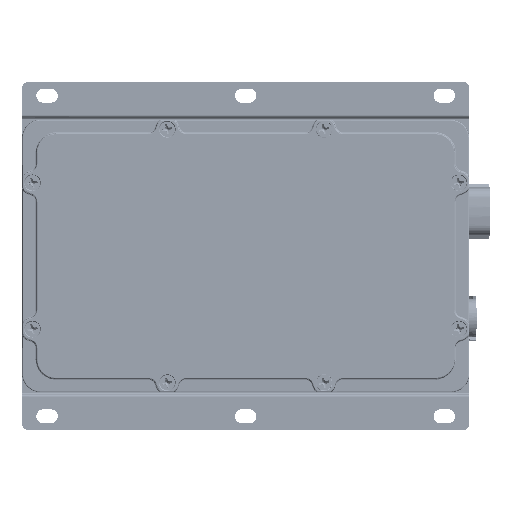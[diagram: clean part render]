
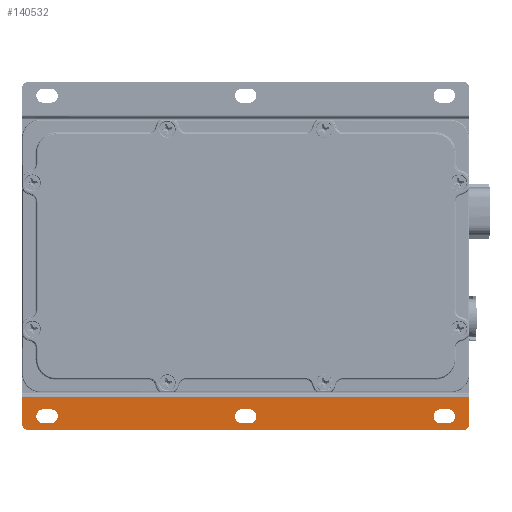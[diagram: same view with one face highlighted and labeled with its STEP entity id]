
A CAD part, front view. The second image highlights one B-rep face of the part: STEP entity #140532.
In plain terms, the highlighted planar face has unit normal (0, -1, 0).
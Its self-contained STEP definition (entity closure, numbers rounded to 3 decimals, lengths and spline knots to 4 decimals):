
#2702=ELLIPSE('',#148076,0.125,0.125);
#4015=ELLIPSE('',#155345,0.125,0.125);
#5087=FACE_BOUND('',#37106,.T.);
#5088=FACE_BOUND('',#37107,.T.);
#5089=FACE_BOUND('',#37108,.T.);
#7680=PLANE('',#155346);
#20944=CIRCLE('',#155311,0.135);
#20945=CIRCLE('',#155314,0.135);
#20948=CIRCLE('',#155323,0.135);
#20949=CIRCLE('',#155326,0.135);
#20952=CIRCLE('',#155335,0.135);
#20953=CIRCLE('',#155338,0.135);
#28717=FACE_OUTER_BOUND('',#37105,.T.);
#37105=EDGE_LOOP('',(#125963,#125964,#125965,#125966,#125967,#125968));
#37106=EDGE_LOOP('',(#125969,#125970,#125971,#125972));
#37107=EDGE_LOOP('',(#125973,#125974,#125975,#125976));
#37108=EDGE_LOOP('',(#125977,#125978,#125979,#125980));
#44769=LINE('',#266569,#53901);
#44785=LINE('',#266600,#53917);
#48068=LINE('',#311047,#57200);
#48076=LINE('',#311067,#57208);
#48079=LINE('',#311074,#57211);
#48088=LINE('',#311099,#57220);
#48091=LINE('',#311106,#57223);
#48099=LINE('',#311129,#57231);
#48105=LINE('',#311149,#57237);
#48106=LINE('',#311150,#57238);
#53901=VECTOR('',#174778,0.3937);
#53917=VECTOR('',#174808,0.3937);
#57200=VECTOR('',#192539,0.3937);
#57208=VECTOR('',#192561,0.3937);
#57211=VECTOR('',#192570,0.3937);
#57220=VECTOR('',#192597,0.3937);
#57223=VECTOR('',#192606,0.3937);
#57231=VECTOR('',#192632,0.3937);
#57237=VECTOR('',#192658,0.3937);
#57238=VECTOR('',#192659,0.3937);
#64711=VERTEX_POINT('',#266566);
#64712=VERTEX_POINT('',#266568);
#64713=VERTEX_POINT('',#266581);
#64720=VERTEX_POINT('',#266598);
#68983=VERTEX_POINT('',#311044);
#68984=VERTEX_POINT('',#311046);
#68987=VERTEX_POINT('',#311060);
#68988=VERTEX_POINT('',#311062);
#68989=VERTEX_POINT('',#311066);
#68990=VERTEX_POINT('',#311070);
#68995=VERTEX_POINT('',#311092);
#68996=VERTEX_POINT('',#311094);
#68997=VERTEX_POINT('',#311098);
#68998=VERTEX_POINT('',#311102);
#69003=VERTEX_POINT('',#311124);
#69004=VERTEX_POINT('',#311128);
#69007=VERTEX_POINT('',#311144);
#69008=VERTEX_POINT('',#311148);
#80005=EDGE_CURVE('',#64711,#64712,#44769,.T.);
#80017=EDGE_CURVE('',#64713,#64711,#2702,.T.);
#80026=EDGE_CURVE('',#64713,#64720,#44785,.T.);
#88216=EDGE_CURVE('',#68984,#68983,#48068,.T.);
#88223=EDGE_CURVE('',#68988,#68987,#20944,.T.);
#88225=EDGE_CURVE('',#68989,#68988,#48076,.T.);
#88227=EDGE_CURVE('',#68990,#68989,#20945,.T.);
#88229=EDGE_CURVE('',#68987,#68990,#48079,.T.);
#88239=EDGE_CURVE('',#68996,#68995,#20948,.T.);
#88241=EDGE_CURVE('',#68997,#68996,#48088,.T.);
#88243=EDGE_CURVE('',#68998,#68997,#20949,.T.);
#88245=EDGE_CURVE('',#68995,#68998,#48091,.T.);
#88254=EDGE_CURVE('',#69003,#68984,#20952,.T.);
#88256=EDGE_CURVE('',#69004,#69003,#48099,.T.);
#88258=EDGE_CURVE('',#68983,#69004,#20953,.T.);
#88264=EDGE_CURVE('',#64712,#69007,#4015,.T.);
#88266=EDGE_CURVE('',#69008,#64720,#48105,.T.);
#88267=EDGE_CURVE('',#69008,#69007,#48106,.T.);
#125963=ORIENTED_EDGE('',*,*,#88264,.F.);
#125964=ORIENTED_EDGE('',*,*,#80005,.F.);
#125965=ORIENTED_EDGE('',*,*,#80017,.F.);
#125966=ORIENTED_EDGE('',*,*,#80026,.T.);
#125967=ORIENTED_EDGE('',*,*,#88266,.F.);
#125968=ORIENTED_EDGE('',*,*,#88267,.T.);
#125969=ORIENTED_EDGE('',*,*,#88227,.T.);
#125970=ORIENTED_EDGE('',*,*,#88225,.T.);
#125971=ORIENTED_EDGE('',*,*,#88223,.T.);
#125972=ORIENTED_EDGE('',*,*,#88229,.T.);
#125973=ORIENTED_EDGE('',*,*,#88243,.T.);
#125974=ORIENTED_EDGE('',*,*,#88241,.T.);
#125975=ORIENTED_EDGE('',*,*,#88239,.T.);
#125976=ORIENTED_EDGE('',*,*,#88245,.T.);
#125977=ORIENTED_EDGE('',*,*,#88254,.T.);
#125978=ORIENTED_EDGE('',*,*,#88216,.T.);
#125979=ORIENTED_EDGE('',*,*,#88258,.T.);
#125980=ORIENTED_EDGE('',*,*,#88256,.T.);
#140532=ADVANCED_FACE('',(#28717,#5087,#5088,#5089),#7680,.F.);
#148076=AXIS2_PLACEMENT_3D('',#266583,#174792,#174793);
#155311=AXIS2_PLACEMENT_3D('',#311063,#192556,#192557);
#155314=AXIS2_PLACEMENT_3D('',#311071,#192565,#192566);
#155323=AXIS2_PLACEMENT_3D('',#311095,#192592,#192593);
#155326=AXIS2_PLACEMENT_3D('',#311103,#192601,#192602);
#155335=AXIS2_PLACEMENT_3D('',#311125,#192627,#192628);
#155338=AXIS2_PLACEMENT_3D('',#311132,#192636,#192637);
#155345=AXIS2_PLACEMENT_3D('',#311145,#192653,#192654);
#155346=AXIS2_PLACEMENT_3D('',#311147,#192656,#192657);
#174778=DIRECTION('',(-1.,0.,0.));
#174792=DIRECTION('center_axis',(0.,1.,0.));
#174793=DIRECTION('ref_axis',(-0.179,0.,-0.984));
#174808=DIRECTION('',(0.,0.,1.));
#192539=DIRECTION('',(1.,0.,0.));
#192556=DIRECTION('center_axis',(0.,1.,0.));
#192557=DIRECTION('ref_axis',(0.,0.,
-1.));
#192561=DIRECTION('',(1.,0.,0.));
#192565=DIRECTION('center_axis',(0.,1.,0.));
#192566=DIRECTION('ref_axis',(0.,0.,
1.));
#192570=DIRECTION('',(-1.,0.,0.));
#192592=DIRECTION('center_axis',(0.,1.,0.));
#192593=DIRECTION('ref_axis',(0.,0.,
-1.));
#192597=DIRECTION('',(1.,0.,0.));
#192601=DIRECTION('center_axis',(0.,1.,0.));
#192602=DIRECTION('ref_axis',(0.,0.,
1.));
#192606=DIRECTION('',(-1.,0.,0.));
#192627=DIRECTION('center_axis',(0.,1.,0.));
#192628=DIRECTION('ref_axis',(0.,0.,
1.));
#192632=DIRECTION('',(-1.,0.,0.));
#192636=DIRECTION('center_axis',(0.,1.,0.));
#192637=DIRECTION('ref_axis',(0.,0.,
-1.));
#192653=DIRECTION('center_axis',(0.,1.,0.));
#192654=DIRECTION('ref_axis',(0.179,0.,-0.984));
#192656=DIRECTION('center_axis',(0.,1.,0.));
#192657=DIRECTION('ref_axis',(0.,0.,
1.));
#192658=DIRECTION('',(1.,0.,0.));
#192659=DIRECTION('',(0.,0.,-1.));
#266566=CARTESIAN_POINT('',(4.1538,-0.374,-3.3336));
#266568=CARTESIAN_POINT('',(-4.1538,-0.374,-3.3336));
#266569=CARTESIAN_POINT('',(0.,-0.374,-3.3336));
#266581=CARTESIAN_POINT('',(4.2788,-0.374,-3.2086));
#266583=CARTESIAN_POINT('Origin',(4.1538,-0.374,-3.2086));
#266598=CARTESIAN_POINT('',(4.2788,-0.374,-2.7026));
#266600=CARTESIAN_POINT('',(4.2788,-0.374,-1.6668));
#311044=CARTESIAN_POINT('',(0.07,-0.374,-2.9322));
#311046=CARTESIAN_POINT('',(-0.07,-0.374,-2.9322));
#311047=CARTESIAN_POINT('',(-0.035,-0.374,-2.9322));
#311060=CARTESIAN_POINT('',(3.87,-0.374,-3.2022));
#311062=CARTESIAN_POINT('',(3.87,-0.374,-2.9322));
#311063=CARTESIAN_POINT('Origin',(3.87,-0.374,-3.0672));
#311066=CARTESIAN_POINT('',(3.73,-0.374,-2.9322));
#311067=CARTESIAN_POINT('',(1.865,-0.374,-2.9322));
#311070=CARTESIAN_POINT('',(3.73,-0.374,-3.2022));
#311071=CARTESIAN_POINT('Origin',(3.73,-0.374,-3.0672));
#311074=CARTESIAN_POINT('',(1.935,-0.374,-3.2022));
#311092=CARTESIAN_POINT('',(-3.73,-0.374,-3.2022));
#311094=CARTESIAN_POINT('',(-3.73,-0.374,-2.9322));
#311095=CARTESIAN_POINT('Origin',(-3.73,-0.374,-3.0672));
#311098=CARTESIAN_POINT('',(-3.87,-0.374,-2.9322));
#311099=CARTESIAN_POINT('',(-1.935,-0.374,-2.9322));
#311102=CARTESIAN_POINT('',(-3.87,-0.374,-3.2022));
#311103=CARTESIAN_POINT('Origin',(-3.87,-0.374,-3.0672));
#311106=CARTESIAN_POINT('',(-1.865,-0.374,-3.2022));
#311124=CARTESIAN_POINT('',(-0.07,-0.374,-3.2022));
#311125=CARTESIAN_POINT('Origin',(-0.07,-0.374,
-3.0672));
#311128=CARTESIAN_POINT('',(0.07,-0.374,-3.2022));
#311129=CARTESIAN_POINT('',(0.035,-0.374,-3.2022));
#311132=CARTESIAN_POINT('Origin',(0.07,-0.374,
-3.0672));
#311144=CARTESIAN_POINT('',(-4.2788,-0.374,-3.2086));
#311145=CARTESIAN_POINT('Origin',(-4.1538,-0.374,
-3.2086));
#311147=CARTESIAN_POINT('Origin',(0.,-0.374,
-3.3336));
#311148=CARTESIAN_POINT('',(-4.2788,-0.374,-2.7026));
#311149=CARTESIAN_POINT('',(0.,-0.374,-2.7026));
#311150=CARTESIAN_POINT('',(-4.2788,-0.374,-1.6668));
